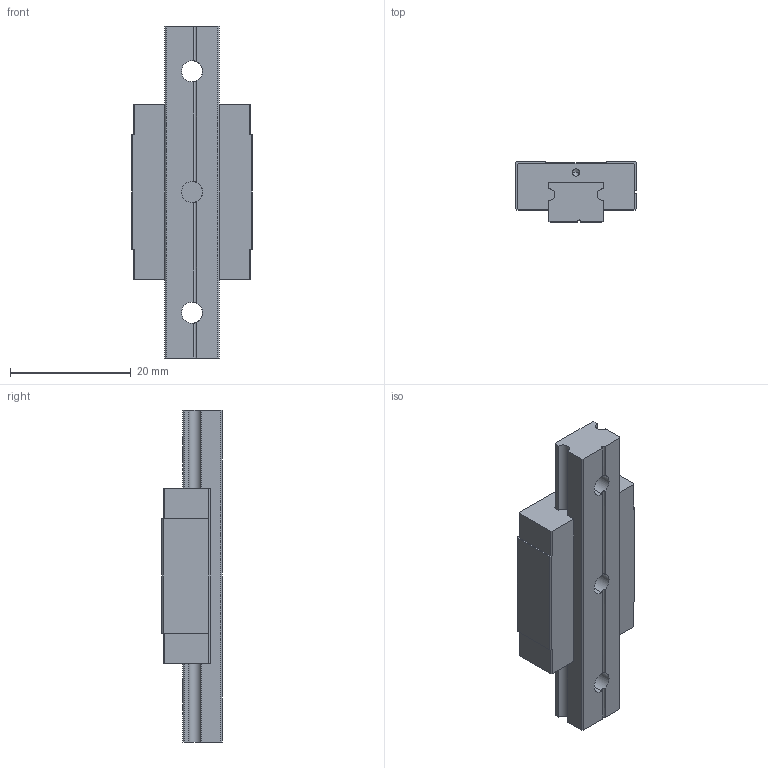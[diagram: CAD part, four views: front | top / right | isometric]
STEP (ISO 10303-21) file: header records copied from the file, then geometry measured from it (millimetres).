
FILE_DESCRIPTION((''),'2;1');
FILE_NAME('MGN9C_ASM','2008-07-11T',('minyao'),(''),'PRO/ENGINEER BY PARAMETRIC TECHNOLOGY CORPORATION, 2004360','PRO/ENGINEER BY PARAMETRIC TECHNOLOGY CORPORATION, 2004360','');
FILE_SCHEMA(('CONFIG_CONTROL_DESIGN'));
Length unit declared in the file: millimetre
Products named in the file (4): MANIFOLD_SOLID_BREP_106; MANIFOLD_SOLID_BREP_107; SAND94F7H96P_ASM; MGN9C_ASM
Assembly tree (3 placements, depth 3):
  MGN9C_ASM
    SAND94F7H96P_ASM
      MANIFOLD_SOLID_BREP_106
      MANIFOLD_SOLID_BREP_107
Bounding box: 20 x 10 x 55 mm (x, y, z)
Volume: 5950.4 mm3; surface area: 4491.6 mm2
Topology: 2 solids, 2 shells, 100 faces, 281 edges, 179 vertices
Faces by surface type: plane 55, cylinder 33, cone 12
Entity records: 3332 total; most frequent: CARTESIAN_POINT 623, DIRECTION 556, ORIENTED_EDGE 538, EDGE_CURVE 269, VECTOR 188, LINE 188, AXIS2_PLACEMENT_3D 184, VERTEX_POINT 179
